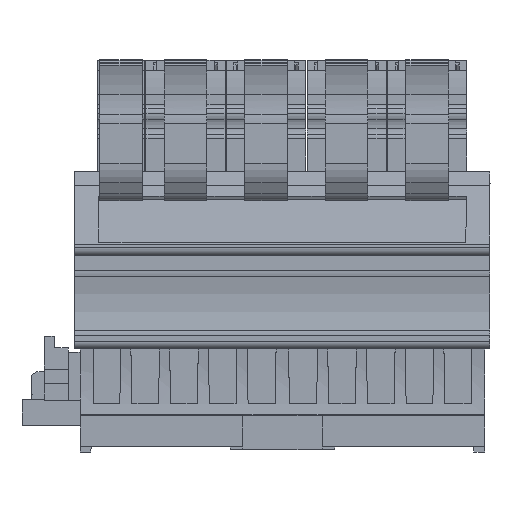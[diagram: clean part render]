
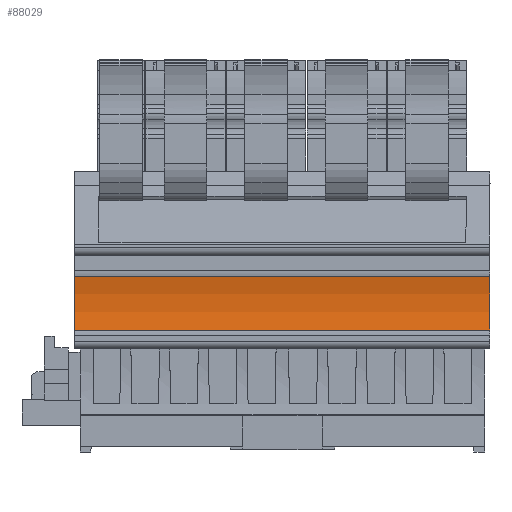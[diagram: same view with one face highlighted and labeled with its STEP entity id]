
A CAD part, front view. The second image highlights one B-rep face of the part: STEP entity #88029.
In plain terms, the highlighted cylindrical face has radius 15.05 mm (diameter 30.1 mm), a partial arc.
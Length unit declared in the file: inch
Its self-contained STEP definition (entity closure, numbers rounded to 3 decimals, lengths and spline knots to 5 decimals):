
#13703=DIRECTION('',(-1.,0.,0.));
#13704=VECTOR('',#13703,2.11024);
#13705=CARTESIAN_POINT('',(2.08268,-3.00827,
0.35603));
#13706=LINE('',#13705,#13704);
#13711=CARTESIAN_POINT('',(2.08268,-3.58303,
0.5));
#13712=DIRECTION('',(-1.,0.,0.));
#13713=DIRECTION('',(0.,0.976,0.22));
#13714=AXIS2_PLACEMENT_3D('',#13711,#13712,#13713);
#13716=CARTESIAN_POINT('',(-0.02756,-3.58303,
0.5));
#13717=DIRECTION('',(1.,0.,0.));
#13718=DIRECTION('',(0.,0.97,-0.243));
#13719=AXIS2_PLACEMENT_3D('',#13716,#13717,#13718);
#13721=DIRECTION('',(-1.,0.,0.));
#13722=VECTOR('',#13721,2.11024);
#13723=CARTESIAN_POINT('',(2.08268,-3.00499,
0.63017));
#13724=LINE('',#13723,#13722);
#67651=CARTESIAN_POINT('',(2.08268,-3.00827,
0.35603));
#67653=VERTEX_POINT('',#67651);
#67657=CARTESIAN_POINT('',(-0.02756,-3.00827,
0.35603));
#67658=VERTEX_POINT('',#67657);
#68061=CARTESIAN_POINT('',(2.08268,-3.00499,
0.63017));
#68062=CARTESIAN_POINT('',(-0.02756,-3.00499,
0.63017));
#68063=VERTEX_POINT('',#68061);
#68064=VERTEX_POINT('',#68062);
#88017=CARTESIAN_POINT('',(5.10433,-3.58303,
0.5));
#88018=DIRECTION('',(1.,0.,0.));
#88019=DIRECTION('',(0.,1.,0.));
#88020=AXIS2_PLACEMENT_3D('',#88017,#88018,#88019);
#88021=CYLINDRICAL_SURFACE('',#88020,0.59252);
#88022=ORIENTED_EDGE('',*,*,#77881,.T.);
#88023=ORIENTED_EDGE('',*,*,#88009,.T.);
#88024=ORIENTED_EDGE('',*,*,#77768,.T.);
#88026=ORIENTED_EDGE('',*,*,#88025,.F.);
#88027=EDGE_LOOP('',(#88022,#88023,#88024,#88026));
#88028=FACE_OUTER_BOUND('',#88027,.F.);
#88029=ADVANCED_FACE('',(#88028),#88021,.F.);
#13715=CIRCLE('',#13714,0.59252);
#13720=CIRCLE('',#13719,0.59252);
#77768=EDGE_CURVE('',#67658,#68064,#13720,.T.);
#77881=EDGE_CURVE('',#68063,#67653,#13715,.T.);
#88009=EDGE_CURVE('',#67653,#67658,#13706,.T.);
#88025=EDGE_CURVE('',#68063,#68064,#13724,.T.);
